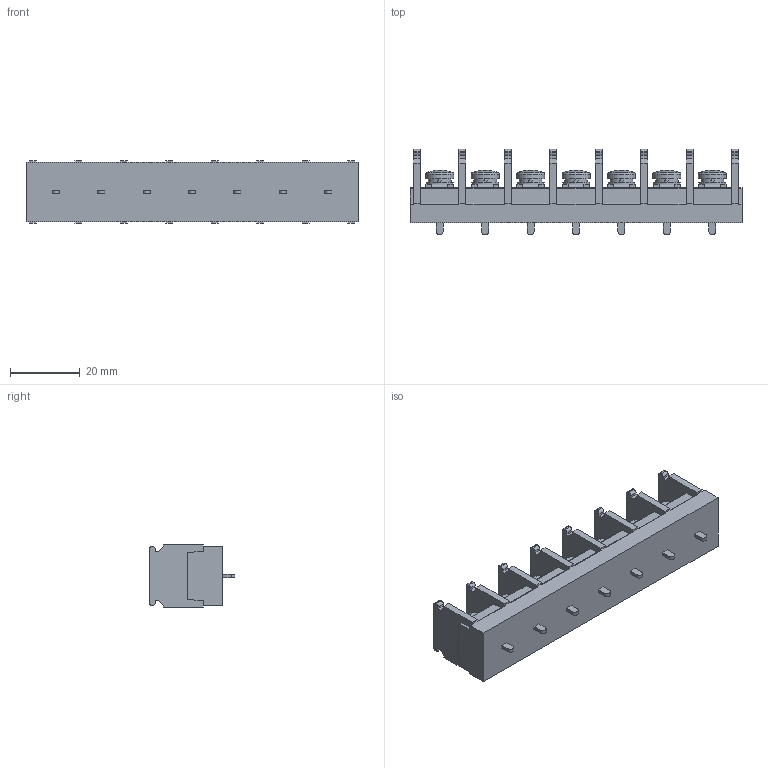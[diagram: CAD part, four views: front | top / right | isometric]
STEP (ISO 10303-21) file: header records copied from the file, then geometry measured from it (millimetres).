
FILE_DESCRIPTION(/* description */ ('Alibre Inc.'),/* implementation_level */ '2;1');
FILE_NAME(/* name */ 'export0',/* time_stamp */ '2016-08-02T19:12:31+09:00',/* author */ (''),/* organization */ (''),/* preprocessor_version */ 'ST-DEVELOPER v14',/* originating_system */ 'Alibre',/* authorisation */ '');
FILE_SCHEMA (('CONFIG_CONTROL_DESIGN'));
Length unit declared in the file: centimetre
Products named in the file (1): ID_1
Bounding box: 95 x 24.5 x 18 mm (x, y, z)
Volume: 19598.8 mm3; surface area: 10522.1 mm2
Topology: 1 solids, 24 shells, 989 faces, 2623 edges, 1730 vertices
Faces by surface type: plane 712, cylinder 124, bspline 104, cone 35, torus 7, sphere 7
Full cylindrical faces by diameter (mm): 4 x7, 6.5 x7, 7.7 x7, 8 x7
Entity records: 29288 total; most frequent: CARTESIAN_POINT 6329, ORIENTED_EDGE 5134, DIRECTION 3710, EDGE_CURVE 2567, VECTOR 1810, LINE 1810, VERTEX_POINT 1709, AXIS2_PLACEMENT_3D 1282
